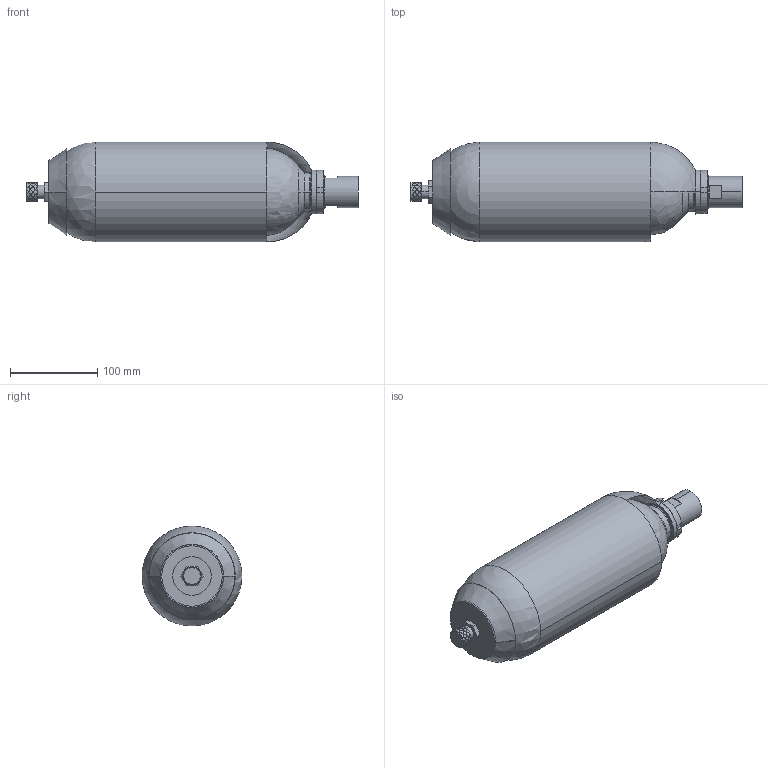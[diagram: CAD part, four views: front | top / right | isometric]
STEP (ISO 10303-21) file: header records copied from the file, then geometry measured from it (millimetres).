
FILE_DESCRIPTION((''),'2;1');
FILE_NAME('EHV_1L6_350_90.stp','2011-02-28T16:38:10',(''),(''),'Mechanical Desktop 2009','Mechanical Desktop 2009',', , ');
FILE_SCHEMA(('CONFIG_CONTROL_DESIGN'));
Length unit declared in the file: millimetre
Products named in the file (27): DESSIN5; AC109057-01125; CA109055-00190(1); CA109055-00190; VC105323-00225; VE105322-00225; CS103924-00225; CV102401-00200(1); CV102401-00200; BO102362-02620; BO100759-02600(1); BO100759-02600; JP101164-00020; JOINT PLAT; EC100999-00200(1); EC100999-00200; BC108642-00220; BE100067-00200(1); BE100067-00200; BM108641-00200; CB108640-00200(1); CB108640-00200; EC100985-00200(1); EC100985-00200; PF109095-05200(1); PF109095-05200; GABARIT
Assembly tree (26 placements, depth 7):
  DESSIN5
    AC109057-01125
      CA109055-00190(1)
        CA109055-00190
      VC105323-00225
        VE105322-00225
          CS103924-00225
            CV102401-00200(1)
              CV102401-00200
        BO102362-02620
          BO100759-02600(1)
            BO100759-02600
          JP101164-00020
            JOINT PLAT
        EC100999-00200(1)
          EC100999-00200
      BC108642-00220
        BE100067-00200(1)
          BE100067-00200
        BM108641-00200
          CB108640-00200(1)
            CB108640-00200
        EC100985-00200(1)
          EC100985-00200
      PF109095-05200(1)
        PF109095-05200
    GABARIT
Bounding box: 379.8 x 114.3 x 114.3 mm (x, y, z)
Volume: 98968.3 mm3; surface area: 276701.5 mm2
Topology: 9 solids, 9 shells, 491 faces, 1089 edges, 626 vertices
Faces by surface type: bspline 210, cylinder 146, plane 63, cone 55, torus 14, sphere 3
Entity records: 21005 total; most frequent: CARTESIAN_POINT 11034, ORIENTED_EDGE 2128, DIRECTION 1682, EDGE_CURVE 1064, AXIS2_PLACEMENT_3D 708, VERTEX_POINT 620, EDGE_LOOP 552, FACE_OUTER_BOUND 491
